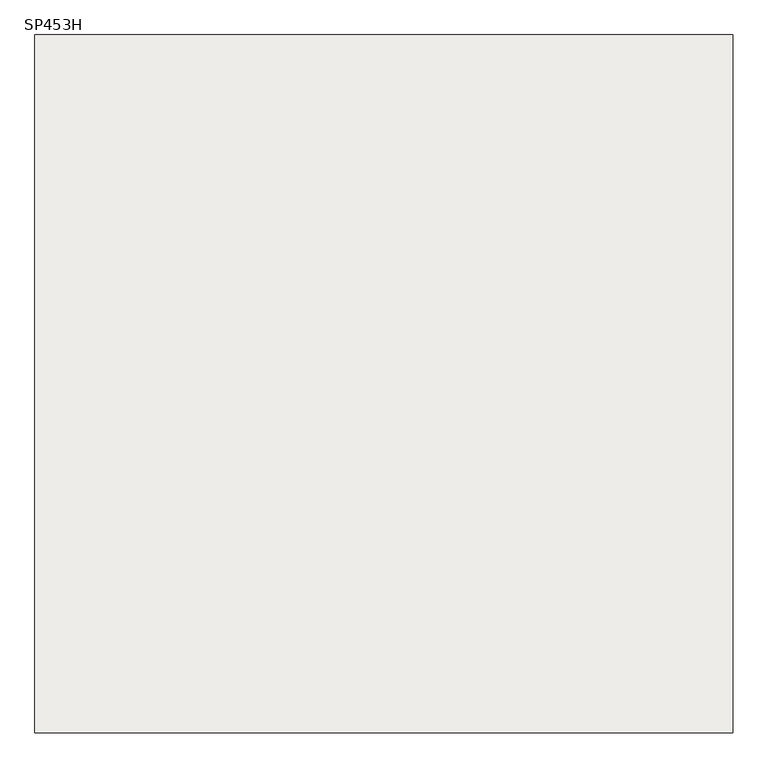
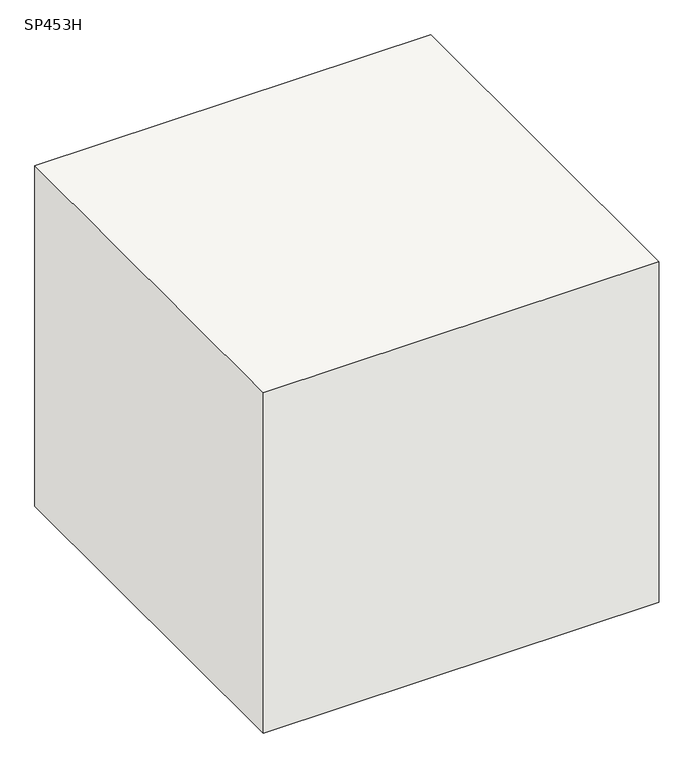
"""IFC4 building model written with IfcOpenShell, lengths in millimetres: slab geometry, 柱形_SP : SP453H."""

from ifc_helpers import new_model, si_unit, frame, origin, place, context, project, spatial, polyline, outline, extrude, source, transform, mapped, element, save


def sp453h_dc423d0a(model_context):
    return source(origin(), model_context, "Body", "SweptSolid", [
        extrude(outline(polyline([(550.0, 550.0), (550.0, -550.0), (-550.0, -550.0), (-550.0, 550.0), (550.0, 550.0)])), frame((0.0, 0.0, -1000.0), z_axis=(0.0, 0.0, 1.0), x_axis=(1.0, 0.0, 0.0)), (0.0, 0.0, 1.0), 1000.0),
    ])


if __name__ == "__main__":
    model = new_model("IFC4")
    model_context = context("Model", 3, world=origin())
    ifc_project = project(units=[si_unit("LENGTHUNIT", "METRE", prefix="MILLI")], contexts=[model_context])
    site = spatial("IfcSite", under=ifc_project)
    building = spatial("IfcBuilding", under=site)
    placement = place(None, origin())
    sp453h_shape = sp453h_dc423d0a(model_context)
    element("IfcSlab", 1, ObjectType="柱形_SP : SP453H", at=placement, inside=building, context=model_context, shape_type="MappedRepresentation", body=[
        mapped(sp453h_shape, transform((0.0, 0.0, 0.0), x_axis=(1.0, 0.0, 0.0), y_axis=(0.0, 1.0, 0.0), z_axis=(0.0, 0.0, 1.0))),
    ])
    save(model, "model.ifc")
